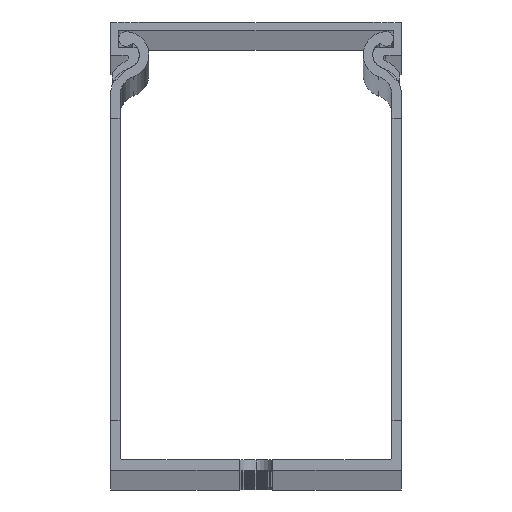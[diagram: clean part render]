
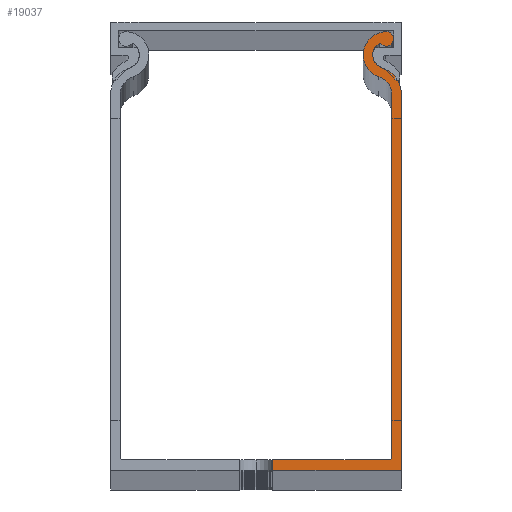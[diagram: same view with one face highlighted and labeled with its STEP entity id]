
A CAD part, top view. The second image highlights one B-rep face of the part: STEP entity #19037.
In plain terms, the highlighted planar face has unit normal (0, 0, 1).
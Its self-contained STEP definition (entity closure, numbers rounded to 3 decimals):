
#168 = DIRECTION ( 'NONE',  ( 1., 0., 0. ) ) ;
#569 = AXIS2_PLACEMENT_3D ( 'NONE', #26787, #15110, #47395 ) ;
#1410 = EDGE_CURVE ( 'NONE', #53148, #9775, #19549, .T. ) ;
#2830 = VECTOR ( 'NONE', #42922, 1000. ) ;
#3092 = LINE ( 'NONE', #43330, #37258 ) ;
#3876 = ORIENTED_EDGE ( 'NONE', *, *, #20191, .F. ) ;
#4335 = FACE_OUTER_BOUND ( 'NONE', #11070, .T. ) ;
#4728 = EDGE_CURVE ( 'NONE', #46586, #9925, #50766, .T. ) ;
#4862 = AXIS2_PLACEMENT_3D ( 'NONE', #43483, #14320, #35059 ) ;
#5037 = DIRECTION ( 'NONE',  ( 0., 1., 0. ) ) ;
#6345 = DIRECTION ( 'NONE',  ( 0., 0., 1. ) ) ;
#6388 = EDGE_CURVE ( 'NONE', #9925, #26890, #39488, .T. ) ;
#6934 = VERTEX_POINT ( 'NONE', #42725 ) ;
#7394 = VERTEX_POINT ( 'NONE', #47398 ) ;
#7596 = CARTESIAN_POINT ( 'NONE',  ( 2590.904, 1289.077, 2000. ) ) ;
#8896 = CIRCLE ( 'NONE', #26936, 2.4 ) ;
#8979 = CARTESIAN_POINT ( 'NONE',  ( 2571.407, 1284.233, 2000. ) ) ;
#9547 = DIRECTION ( 'NONE',  ( 0., 0., 1. ) ) ;
#9663 = EDGE_CURVE ( 'NONE', #45098, #25634, #8896, .T. ) ;
#9690 = CARTESIAN_POINT ( 'NONE',  ( 2592.207, 1218.956, 2000. ) ) ;
#9775 = VERTEX_POINT ( 'NONE', #40067 ) ;
#9925 = VERTEX_POINT ( 'NONE', #13048 ) ;
#11070 = EDGE_LOOP ( 'NONE', ( #3876, #48018, #27270, #24534, #22010, #13369, #17137, #12330, #38501, #13201, #48742, #18342, #28350 ) ) ;
#11263 = DIRECTION ( 'NONE',  ( 0., 0., -1. ) ) ;
#11947 = EDGE_CURVE ( 'NONE', #9775, #13158, #37865, .T. ) ;
#12090 = CARTESIAN_POINT ( 'NONE',  ( 2591.655, 1291.356, 2000. ) ) ;
#12330 = ORIENTED_EDGE ( 'NONE', *, *, #36833, .T. ) ;
#12820 = DIRECTION ( 'NONE',  ( 0., -1., 0. ) ) ;
#12993 = CARTESIAN_POINT ( 'NONE',  ( 2592.707, 1284.203, 2000. ) ) ;
#13048 = CARTESIAN_POINT ( 'NONE',  ( 2590.372, 1287.462, 2000. ) ) ;
#13082 = AXIS2_PLACEMENT_3D ( 'NONE', #28917, #28563, #168 ) ;
#13158 = VERTEX_POINT ( 'NONE', #7596 ) ;
#13201 = ORIENTED_EDGE ( 'NONE', *, *, #6388, .T. ) ;
#13369 = ORIENTED_EDGE ( 'NONE', *, *, #9663, .T. ) ;
#14320 = DIRECTION ( 'NONE',  ( 0., 0., -1. ) ) ;
#14505 = DIRECTION ( 'NONE',  ( 1., 0., 0. ) ) ;
#15110 = DIRECTION ( 'NONE',  ( 0., 0., 1. ) ) ;
#15120 = DIRECTION ( 'NONE',  ( 1., 0., 0. ) ) ;
#15286 = CARTESIAN_POINT ( 'NONE',  ( 2568.407, 1217.056, 2000. ) ) ;
#15863 = VECTOR ( 'NONE', #5037, 1000. ) ;
#16202 = CARTESIAN_POINT ( 'NONE',  ( 2592.707, 1219.456, 2000. ) ) ;
#17137 = ORIENTED_EDGE ( 'NONE', *, *, #28133, .T. ) ;
#18342 = ORIENTED_EDGE ( 'NONE', *, *, #22122, .T. ) ;
#18908 = CARTESIAN_POINT ( 'NONE',  ( 2591.655, 1291.356, 2000. ) ) ;
#19037 = ADVANCED_FACE ( 'NONE', ( #4335 ), #34081, .T. ) ;
#19547 = AXIS2_PLACEMENT_3D ( 'NONE', #48027, #11263, #27408 ) ;
#19549 = LINE ( 'NONE', #51246, #2830 ) ;
#19768 = CARTESIAN_POINT ( 'NONE',  ( 2589.307, 1284.233, 2000. ) ) ;
#20191 = EDGE_CURVE ( 'NONE', #7394, #6934, #48792, .T. ) ;
#21492 = VECTOR ( 'NONE', #12820, 1000. ) ;
#21563 = EDGE_CURVE ( 'NONE', #7394, #53148, #24722, .T. ) ;
#22010 = ORIENTED_EDGE ( 'NONE', *, *, #47777, .T. ) ;
#22122 = EDGE_CURVE ( 'NONE', #37019, #24039, #45309, .T. ) ;
#22846 = CIRCLE ( 'NONE', #52725, 4.1 ) ;
#22934 = AXIS2_PLACEMENT_3D ( 'NONE', #34593, #9547, #42127 ) ;
#24039 = VERTEX_POINT ( 'NONE', #9690 ) ;
#24082 = DIRECTION ( 'NONE',  ( 1., 0., 0. ) ) ;
#24534 = ORIENTED_EDGE ( 'NONE', *, *, #11947, .T. ) ;
#24566 = CARTESIAN_POINT ( 'NONE',  ( 2589.255, 1291.356, 2000. ) ) ;
#24722 = LINE ( 'NONE', #15286, #27929 ) ;
#24839 = DIRECTION ( 'NONE',  ( 1., 0., 0. ) ) ;
#25634 = VERTEX_POINT ( 'NONE', #31809 ) ;
#26787 = CARTESIAN_POINT ( 'NONE',  ( 2591.657, 1294.213, 2000. ) ) ;
#26890 = VERTEX_POINT ( 'NONE', #52976 ) ;
#26936 = AXIS2_PLACEMENT_3D ( 'NONE', #31086, #35598, #14505 ) ;
#27270 = ORIENTED_EDGE ( 'NONE', *, *, #1410, .T. ) ;
#27408 = DIRECTION ( 'NONE',  ( 1., 0., 0. ) ) ;
#27929 = VECTOR ( 'NONE', #15120, 1000. ) ;
#28133 = EDGE_CURVE ( 'NONE', #25634, #38446, #48864, .T. ) ;
#28350 = ORIENTED_EDGE ( 'NONE', *, *, #37308, .T. ) ;
#28563 = DIRECTION ( 'NONE',  ( 0., 0., -1. ) ) ;
#28917 = CARTESIAN_POINT ( 'NONE',  ( 2592.207, 1219.456, 2000. ) ) ;
#30144 = EDGE_CURVE ( 'NONE', #26890, #37019, #49234, .T. ) ;
#31086 = CARTESIAN_POINT ( 'NONE',  ( 2591.655, 1291.356, 2000. ) ) ;
#31709 = DIRECTION ( 'NONE',  ( 1., 0., 0. ) ) ;
#31809 = CARTESIAN_POINT ( 'NONE',  ( 2590.527, 1293.474, 2000. ) ) ;
#33959 = CARTESIAN_POINT ( 'NONE',  ( 2591.029, 1295.408, 2000. ) ) ;
#34081 = PLANE ( 'NONE',  #22934 ) ;
#34593 = CARTESIAN_POINT ( 'NONE',  ( 2547.507, 1284.233, 2000. ) ) ;
#35059 = DIRECTION ( 'NONE',  ( 1., 0., 0. ) ) ;
#35091 = DIRECTION ( 'NONE',  ( -1., 0., 0. ) ) ;
#35598 = DIRECTION ( 'NONE',  ( 0., 0., -1. ) ) ;
#36771 = DIRECTION ( 'NONE',  ( 0., 0., 1. ) ) ;
#36833 = EDGE_CURVE ( 'NONE', #38446, #46586, #22846, .T. ) ;
#37019 = VERTEX_POINT ( 'NONE', #16202 ) ;
#37258 = VECTOR ( 'NONE', #35091, 1000. ) ;
#37308 = EDGE_CURVE ( 'NONE', #24039, #6934, #3092, .T. ) ;
#37865 = CIRCLE ( 'NONE', #52646, 5.1 ) ;
#38302 = CARTESIAN_POINT ( 'NONE',  ( 2587.555, 1291.356, 2000. ) ) ;
#38446 = VERTEX_POINT ( 'NONE', #33959 ) ;
#38501 = ORIENTED_EDGE ( 'NONE', *, *, #4728, .T. ) ;
#39488 = CIRCLE ( 'NONE', #4862, 3.4 ) ;
#40067 = CARTESIAN_POINT ( 'NONE',  ( 2594.407, 1284.196, 2000. ) ) ;
#41958 = CIRCLE ( 'NONE', #19547, 2.4 ) ;
#42127 = DIRECTION ( 'NONE',  ( 1., 0., 0. ) ) ;
#42167 = CARTESIAN_POINT ( 'NONE',  ( 2594.407, 1217.056, 2000. ) ) ;
#42686 = AXIS2_PLACEMENT_3D ( 'NONE', #12090, #36771, #24839 ) ;
#42725 = CARTESIAN_POINT ( 'NONE',  ( 2571.407, 1218.956, 2000. ) ) ;
#42922 = DIRECTION ( 'NONE',  ( 0., 1., 0. ) ) ;
#43330 = CARTESIAN_POINT ( 'NONE',  ( 2568.407, 1218.956, 2000. ) ) ;
#43483 = CARTESIAN_POINT ( 'NONE',  ( 2589.307, 1284.233, 2000. ) ) ;
#45098 = VERTEX_POINT ( 'NONE', #24566 ) ;
#45309 = CIRCLE ( 'NONE', #13082, 0.5 ) ;
#46586 = VERTEX_POINT ( 'NONE', #38302 ) ;
#47395 = DIRECTION ( 'NONE',  ( 1., 0., 0. ) ) ;
#47398 = CARTESIAN_POINT ( 'NONE',  ( 2571.407, 1217.056, 2000. ) ) ;
#47777 = EDGE_CURVE ( 'NONE', #13158, #45098, #41958, .T. ) ;
#48018 = ORIENTED_EDGE ( 'NONE', *, *, #21563, .T. ) ;
#48027 = CARTESIAN_POINT ( 'NONE',  ( 2591.655, 1291.356, 2000. ) ) ;
#48625 = DIRECTION ( 'NONE',  ( 0., 0., 1. ) ) ;
#48742 = ORIENTED_EDGE ( 'NONE', *, *, #30144, .T. ) ;
#48792 = LINE ( 'NONE', #8979, #15863 ) ;
#48864 = CIRCLE ( 'NONE', #569, 1.35 ) ;
#49234 = LINE ( 'NONE', #12993, #21492 ) ;
#50766 = CIRCLE ( 'NONE', #42686, 4.1 ) ;
#51246 = CARTESIAN_POINT ( 'NONE',  ( 2594.407, 1217.056, 2000. ) ) ;
#52646 = AXIS2_PLACEMENT_3D ( 'NONE', #19768, #48625, #24082 ) ;
#52725 = AXIS2_PLACEMENT_3D ( 'NONE', #18908, #6345, #31709 ) ;
#52976 = CARTESIAN_POINT ( 'NONE',  ( 2592.707, 1284.203, 2000. ) ) ;
#53148 = VERTEX_POINT ( 'NONE', #42167 ) ;
